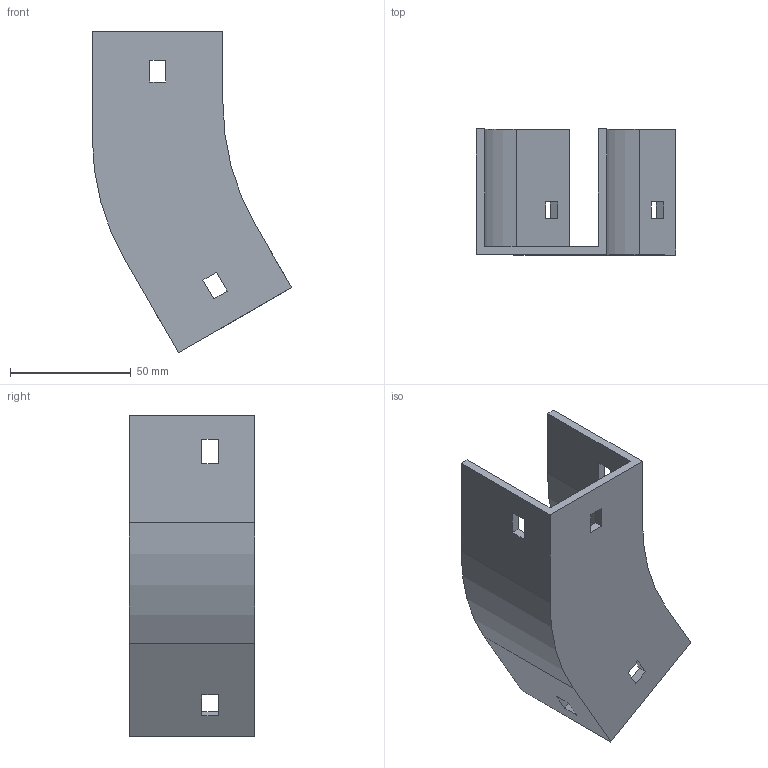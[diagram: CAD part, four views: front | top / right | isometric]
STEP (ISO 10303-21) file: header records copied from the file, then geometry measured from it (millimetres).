
FILE_DESCRIPTION (( 'STEP AP214' ), '1' );
FILE_NAME ('12F1B050.step', '2025-02-21T12:53:52', ( '' ), ( '' ), 'SwSTEP 2.0', 'SolidWorks 2023', '' );
FILE_SCHEMA (( 'AUTOMOTIVE_DESIGN' ));
Length unit declared in the file: millimetre
Products named in the file (1): 12F1B050
Bounding box: 82.4 x 52 x 132.98 mm (x, y, z)
Volume: 65872.2 mm3; surface area: 40279 mm2
Topology: 1 solids, 1 shells, 42 faces, 120 edges, 80 vertices
Faces by surface type: plane 38, cylinder 4
Entity records: 1399 total; most frequent: CARTESIAN_POINT 243, ORIENTED_EDGE 240, DIRECTION 214, EDGE_CURVE 120, LINE 112, VECTOR 112, VERTEX_POINT 80, EDGE_LOOP 54
